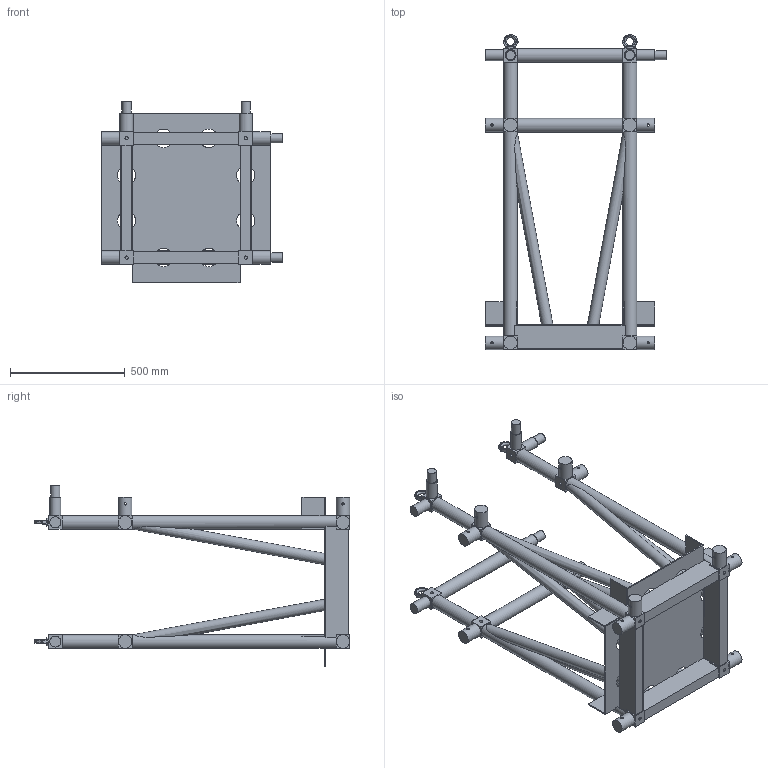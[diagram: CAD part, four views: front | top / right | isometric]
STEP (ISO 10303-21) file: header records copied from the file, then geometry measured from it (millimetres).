
FILE_DESCRIPTION(/* description */ (''),/* implementation_level */ '2;1');
FILE_NAME(/* name */ 'M:\Symbolen_NIEUW\STP\Corners\B100CW\B100CW-C017_111100082.stp',/* time_stamp */ '2017-12-06T15:17:02+01:00',/* author */ ('Kees'),/* organization */ (''),/* preprocessor_version */ 'ST-DEVELOPER v16.13',/* originating_system */ 'Autodesk Inventor 2018',/* authorisation */ '');
FILE_SCHEMA (('AUTOMOTIVE_DESIGN { 1 0 10303 214 3 1 1 }'));
Products named in the file (1): 260019915
Bounding box: 791 x 1377.17 x 790 mm (x, y, z)
Volume: 40350851.7 mm3; surface area: 4266027.2 mm2
Topology: 1 solids, 1 shells, 2782 faces, 7656 edges, 4928 vertices
Faces by surface type: plane 2172, cylinder 338, bspline 168, torus 76, sphere 16, cone 12
Full cylindrical faces by diameter (mm): 10 x12, 13.835 x68, 35 x4, 40 x4, 48 x6, 48.3 x8, 58.8 x12, 60 x10, 80 x8
Entity records: 110234 total; most frequent: CARTESIAN_POINT 38333, ORIENTED_EDGE 14828, DIRECTION 13338, EDGE_CURVE 7414, LINE 5948, VECTOR 5948, VERTEX_POINT 4836, AXIS2_PLACEMENT_3D 3695
